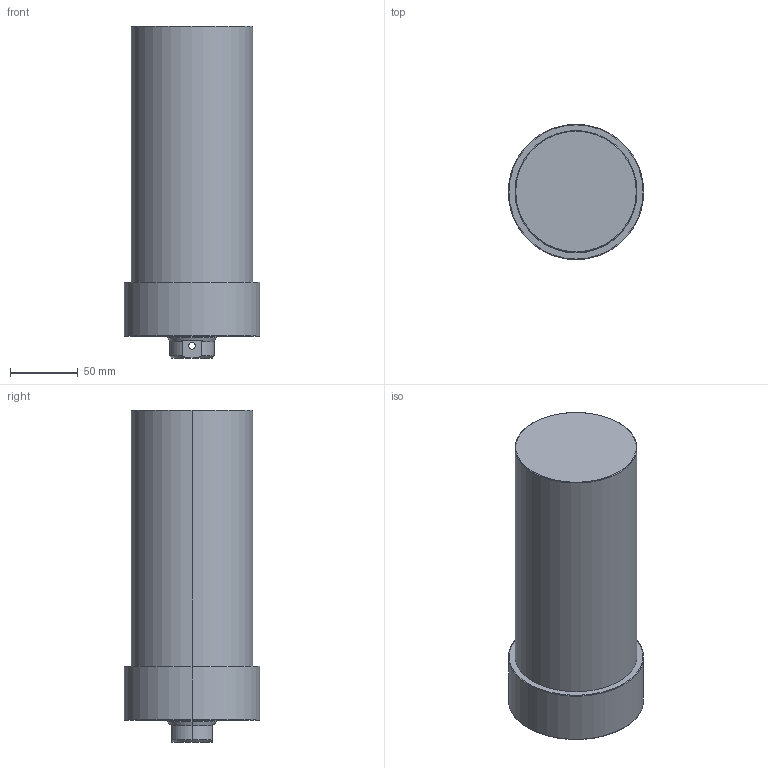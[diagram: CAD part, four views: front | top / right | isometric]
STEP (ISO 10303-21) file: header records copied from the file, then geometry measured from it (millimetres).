
FILE_DESCRIPTION (( 'STEP AP203' ), '1' );
FILE_NAME ('CLLU-090GB-145.STEP', '2020-01-13T05:57:26', ( '' ), ( '' ), 'SwSTEP 2.0', 'SolidWorks 2015', '' );
FILE_SCHEMA (( 'CONFIG_CONTROL_DESIGN' ));
Length unit declared in the file: millimetre
Products named in the file (1): CLLU-090GB-145
Bounding box: 100 x 100 x 245 mm (x, y, z)
Volume: 1510014.3 mm3; surface area: 89038.6 mm2
Topology: 1 solids, 1 shells, 68 faces, 155 edges, 88 vertices
Faces by surface type: cylinder 27, cone 25, plane 10, torus 6
Entity records: 2061 total; most frequent: CARTESIAN_POINT 462, DIRECTION 350, ORIENTED_EDGE 290, AXIS2_PLACEMENT_3D 148, EDGE_CURVE 145, VERTEX_POINT 88, EDGE_LOOP 81, CIRCLE 79
